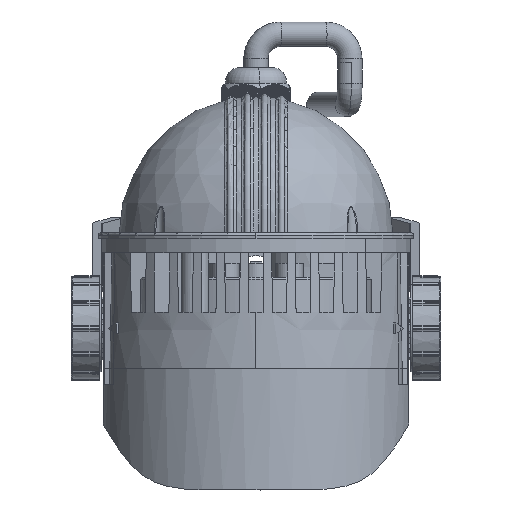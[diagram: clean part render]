
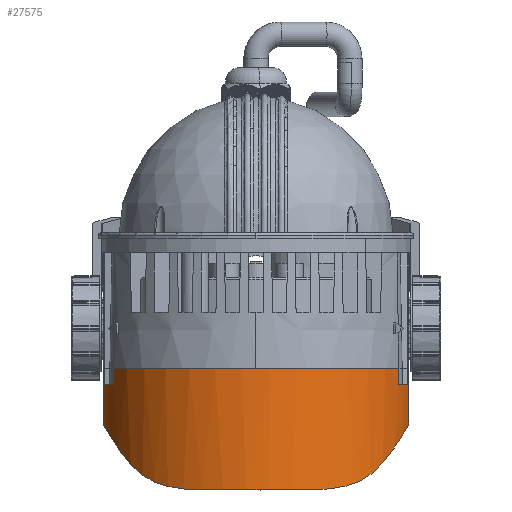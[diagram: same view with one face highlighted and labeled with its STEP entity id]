
A CAD part, left-side view. The second image highlights one B-rep face of the part: STEP entity #27575.
In plain terms, the highlighted cylindrical face has radius 45 mm (diameter 90 mm), a partial arc.
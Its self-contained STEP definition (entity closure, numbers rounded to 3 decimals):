
#25708=DIRECTION('',(0.,0.,1.));
#25709=VECTOR('',#25708,16.137);
#25710=CARTESIAN_POINT('',(-11.137,43.6,-29.291));
#25711=LINE('',#25710,#25709);
#25712=CARTESIAN_POINT('',(0.,0.,-13.154));
#25713=DIRECTION('',(0.,0.,1.));
#25714=DIRECTION('',(-0.247,0.969,0.));
#25715=AXIS2_PLACEMENT_3D('',#25712,#25713,#25714);
#25717=DIRECTION('',(0.,0.,1.));
#25718=VECTOR('',#25717,4.7);
#25719=CARTESIAN_POINT('',(-12.5,43.229,-17.854));
#25720=LINE('',#25719,#25718);
#25721=CARTESIAN_POINT('',(0.,0.,-17.854));
#25722=DIRECTION('',(0.,0.,1.));
#25723=DIRECTION('',(-0.278,0.961,0.));
#25724=AXIS2_PLACEMENT_3D('',#25721,#25722,#25723);
#25726=DIRECTION('',(0.,0.,1.));
#25727=VECTOR('',#25726,4.7);
#25728=CARTESIAN_POINT('',(-18.995,40.794,
-17.854));
#25729=LINE('',#25728,#25727);
#25730=CARTESIAN_POINT('',(0.,0.,-13.154));
#25731=DIRECTION('',(0.,0.,1.));
#25732=DIRECTION('',(-0.422,0.907,0.));
#25733=AXIS2_PLACEMENT_3D('',#25730,#25731,#25732);
#25735=DIRECTION('',(0.,0.,1.));
#25736=VECTOR('',#25735,4.7);
#25737=CARTESIAN_POINT('',(-18.995,-40.794,
-17.854));
#25738=LINE('',#25737,#25736);
#25739=CARTESIAN_POINT('',(0.,0.,-17.854));
#25740=DIRECTION('',(0.,0.,1.));
#25741=DIRECTION('',(-0.422,-0.907,0.));
#25742=AXIS2_PLACEMENT_3D('',#25739,#25740,#25741);
#25744=DIRECTION('',(0.,0.,1.));
#25745=VECTOR('',#25744,4.7);
#25746=CARTESIAN_POINT('',(-12.5,-43.229,-17.854));
#25747=LINE('',#25746,#25745);
#25748=CARTESIAN_POINT('',(0.,0.,-13.154));
#25749=DIRECTION('',(0.,0.,1.));
#25750=DIRECTION('',(-0.278,-0.961,0.));
#25751=AXIS2_PLACEMENT_3D('',#25748,#25749,#25750);
#25753=DIRECTION('',(0.,0.,1.));
#25754=VECTOR('',#25753,16.137);
#25755=CARTESIAN_POINT('',(-11.137,-43.6,-29.291));
#25756=LINE('',#25755,#25754);
#25757=CARTESIAN_POINT('',(-11.137,-43.6,-29.291));
#25758=CARTESIAN_POINT('',(-11.883,-43.41,
-29.612));
#25759=CARTESIAN_POINT('',(-13.374,-42.988,
-30.308));
#25760=CARTESIAN_POINT('',(-15.604,-42.23,
-31.526));
#25761=CARTESIAN_POINT('',(-17.813,-41.348,
-32.919));
#25762=CARTESIAN_POINT('',(-20.13,-40.277,
-34.608));
#25763=CARTESIAN_POINT('',(-22.673,-38.909,
-36.686));
#25764=CARTESIAN_POINT('',(-25.21,-37.313,
-38.876));
#25765=CARTESIAN_POINT('',(-27.414,-35.716,
-40.752));
#25766=CARTESIAN_POINT('',(-29.29,-34.188,
-42.258));
#25767=CARTESIAN_POINT('',(-30.939,-32.7,
-43.475));
#25768=CARTESIAN_POINT('',(-32.435,-31.216,
-44.47));
#25769=CARTESIAN_POINT('',(-33.843,-29.684,
-45.3));
#25770=CARTESIAN_POINT('',(-35.189,-28.076,
-45.99));
#25771=CARTESIAN_POINT('',(-36.494,-26.36,
-46.556));
#25772=CARTESIAN_POINT('',(-37.773,-24.494,
-47.012));
#25773=CARTESIAN_POINT('',(-39.015,-22.468,
-47.357));
#25774=CARTESIAN_POINT('',(-40.178,-20.317,
-47.597));
#25775=CARTESIAN_POINT('',(-41.25,-18.045,
-47.747));
#25776=CARTESIAN_POINT('',(-42.226,-15.631,
-47.827));
#25777=CARTESIAN_POINT('',(-43.09,-13.07,
-47.853));
#25778=CARTESIAN_POINT('',(-43.822,-10.36,
-47.843));
#25779=CARTESIAN_POINT('',(-44.401,-7.513,
-47.816));
#25780=CARTESIAN_POINT('',(-44.803,-4.554,
-47.787));
#25781=CARTESIAN_POINT('',(-45.009,-1.521,
-47.768));
#25782=CARTESIAN_POINT('',(-45.008,1.538,
-47.769));
#25783=CARTESIAN_POINT('',(-44.801,4.571,
-47.787));
#25784=CARTESIAN_POINT('',(-44.398,7.53,
-47.816));
#25785=CARTESIAN_POINT('',(-43.819,10.376,
-47.844));
#25786=CARTESIAN_POINT('',(-43.085,13.085,
-47.853));
#25787=CARTESIAN_POINT('',(-42.22,15.646,
-47.826));
#25788=CARTESIAN_POINT('',(-41.244,18.059,
-47.746));
#25789=CARTESIAN_POINT('',(-40.171,20.33,
-47.595));
#25790=CARTESIAN_POINT('',(-39.008,22.479,
-47.356));
#25791=CARTESIAN_POINT('',(-37.766,24.505,
-47.009));
#25792=CARTESIAN_POINT('',(-36.486,26.371,
-46.553));
#25793=CARTESIAN_POINT('',(-35.181,28.085,
-45.986));
#25794=CARTESIAN_POINT('',(-33.834,29.693,
-45.296));
#25795=CARTESIAN_POINT('',(-32.426,31.225,
-44.465));
#25796=CARTESIAN_POINT('',(-30.929,32.71,
-43.468));
#25797=CARTESIAN_POINT('',(-29.281,34.197,
-42.251));
#25798=CARTESIAN_POINT('',(-27.402,35.725,
-40.742));
#25799=CARTESIAN_POINT('',(-25.201,37.319,
-38.868));
#25800=CARTESIAN_POINT('',(-22.668,38.912,
-36.681));
#25801=CARTESIAN_POINT('',(-20.125,40.28,
-34.604));
#25802=CARTESIAN_POINT('',(-17.813,41.348,
-32.918));
#25803=CARTESIAN_POINT('',(-15.604,42.23,
-31.526));
#25804=CARTESIAN_POINT('',(-13.374,42.988,
-30.308));
#25805=CARTESIAN_POINT('',(-11.883,43.41,
-29.612));
#25806=CARTESIAN_POINT('',(-11.137,43.6,-29.291));
#25986=CARTESIAN_POINT('',(-11.137,43.6,-29.291));
#26659=CARTESIAN_POINT('',(-12.5,43.229,-13.154));
#26661=VERTEX_POINT('',#26659);
#26666=CARTESIAN_POINT('',(-12.5,43.229,-17.854));
#26667=CARTESIAN_POINT('',(-18.995,40.794,
-17.854));
#26668=VERTEX_POINT('',#26666);
#26669=VERTEX_POINT('',#26667);
#26680=CARTESIAN_POINT('',(-11.137,43.6,-13.154));
#26682=VERTEX_POINT('',#26680);
#26684=VERTEX_POINT('',#25986);
#26693=VERTEX_POINT('',#25757);
#26702=CARTESIAN_POINT('',(-18.995,40.794,
-13.154));
#26703=CARTESIAN_POINT('',(-18.995,-40.794,
-13.154));
#26704=VERTEX_POINT('',#26702);
#26705=VERTEX_POINT('',#26703);
#26706=CARTESIAN_POINT('',(-12.5,-43.229,-13.154));
#26708=VERTEX_POINT('',#26706);
#26714=CARTESIAN_POINT('',(-18.995,-40.794,
-17.854));
#26715=CARTESIAN_POINT('',(-12.5,-43.229,-17.854));
#26716=VERTEX_POINT('',#26714);
#26717=VERTEX_POINT('',#26715);
#26725=CARTESIAN_POINT('',(-11.137,-43.6,-13.154));
#26727=VERTEX_POINT('',#26725);
#27548=CARTESIAN_POINT('',(0.,0.,-48.543));
#27549=DIRECTION('',(0.,0.,1.));
#27550=DIRECTION('',(0.,1.,0.));
#27551=AXIS2_PLACEMENT_3D('',#27548,#27549,#27550);
#27552=CYLINDRICAL_SURFACE('',#27551,45.);
#27553=ORIENTED_EDGE('',*,*,#27533,.T.);
#27554=ORIENTED_EDGE('',*,*,#26821,.T.);
#27556=ORIENTED_EDGE('',*,*,#27555,.F.);
#27558=ORIENTED_EDGE('',*,*,#27557,.T.);
#27560=ORIENTED_EDGE('',*,*,#27559,.T.);
#27561=ORIENTED_EDGE('',*,*,#26813,.T.);
#27563=ORIENTED_EDGE('',*,*,#27562,.F.);
#27565=ORIENTED_EDGE('',*,*,#27564,.T.);
#27567=ORIENTED_EDGE('',*,*,#27566,.T.);
#27568=ORIENTED_EDGE('',*,*,#26805,.T.);
#27570=ORIENTED_EDGE('',*,*,#27569,.F.);
#27572=ORIENTED_EDGE('',*,*,#27571,.T.);
#27573=EDGE_LOOP('',(#27553,#27554,#27556,#27558,#27560,#27561,#27563,#27565,
#27567,#27568,#27570,#27572));
#27574=FACE_OUTER_BOUND('',#27573,.F.);
#27575=ADVANCED_FACE('',(#27574),#27552,.T.);
#25716=CIRCLE('',#25715,45.);
#25725=CIRCLE('',#25724,45.);
#25734=CIRCLE('',#25733,45.);
#25743=CIRCLE('',#25742,45.);
#25752=CIRCLE('',#25751,45.);
#25807=B_SPLINE_CURVE_WITH_KNOTS('',3,(#25757,#25758,#25759,#25760,#25761,
#25762,#25763,#25764,#25765,#25766,#25767,#25768,#25769,#25770,#25771,#25772,
#25773,#25774,#25775,#25776,#25777,#25778,#25779,#25780,#25781,#25782,#25783,
#25784,#25785,#25786,#25787,#25788,#25789,#25790,#25791,#25792,#25793,#25794,
#25795,#25796,#25797,#25798,#25799,#25800,#25801,#25802,#25803,#25804,#25805,
#25806),.UNSPECIFIED.,.F.,.F.,(4,1,1,1,1,1,1,1,1,1,1,1,1,1,1,1,1,1,1,1,1,1,1,1,
1,1,1,1,1,1,1,1,1,1,1,1,1,1,1,1,1,1,1,1,1,1,1,4),(0.,0.021,
0.043,0.064,0.085,0.106,
0.128,0.149,0.17,0.191,
0.213,0.234,0.255,0.277,
0.298,0.319,0.34,0.362,
0.383,0.404,0.426,0.447,
0.468,0.489,0.511,0.532,
0.553,0.574,0.596,0.617,
0.638,0.66,0.681,0.702,
0.723,0.745,0.766,0.787,
0.809,0.83,0.851,0.872,
0.894,0.915,0.936,0.957,
0.979,1.),.UNSPECIFIED.);
#26805=EDGE_CURVE('',#26708,#26727,#25752,.T.);
#26813=EDGE_CURVE('',#26704,#26705,#25734,.T.);
#26821=EDGE_CURVE('',#26682,#26661,#25716,.T.);
#27533=EDGE_CURVE('',#26684,#26682,#25711,.T.);
#27555=EDGE_CURVE('',#26668,#26661,#25720,.T.);
#27557=EDGE_CURVE('',#26668,#26669,#25725,.T.);
#27559=EDGE_CURVE('',#26669,#26704,#25729,.T.);
#27562=EDGE_CURVE('',#26716,#26705,#25738,.T.);
#27564=EDGE_CURVE('',#26716,#26717,#25743,.T.);
#27566=EDGE_CURVE('',#26717,#26708,#25747,.T.);
#27569=EDGE_CURVE('',#26693,#26727,#25756,.T.);
#27571=EDGE_CURVE('',#26693,#26684,#25807,.T.);
